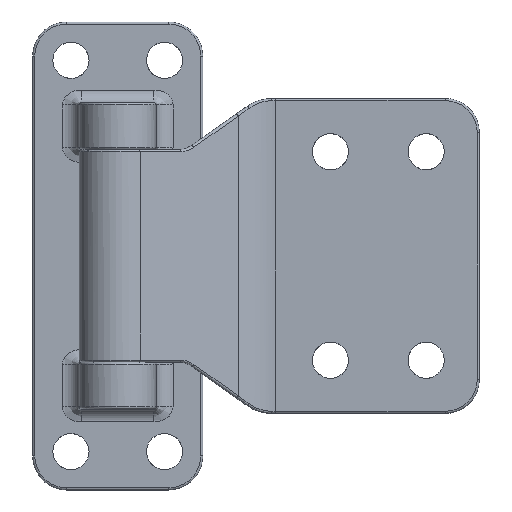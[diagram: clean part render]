
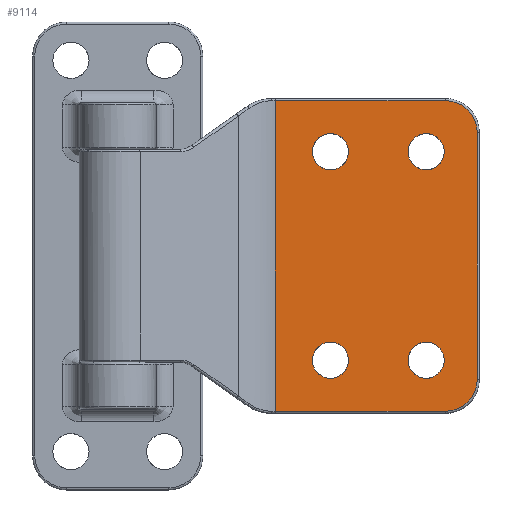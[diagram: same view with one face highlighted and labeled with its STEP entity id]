
A CAD part, top view. The second image highlights one B-rep face of the part: STEP entity #9114.
In plain terms, the highlighted planar face has unit normal (0, 0, 1).
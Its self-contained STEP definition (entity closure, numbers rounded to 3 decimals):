
#28 = CARTESIAN_POINT ( 'NONE',  ( 85., 37., -12. ) ) ;
#35 = AXIS2_PLACEMENT_3D ( 'NONE', #10041, #2423, #11174 ) ;
#132 = ORIENTED_EDGE ( 'NONE', *, *, #7235, .T. ) ;
#304 = DIRECTION ( 'NONE',  ( 0., 0., 1. ) ) ;
#354 = CARTESIAN_POINT ( 'NONE',  ( 68.25, -24.5, -12. ) ) ;
#378 = AXIS2_PLACEMENT_3D ( 'NONE', #7570, #3030, #6511 ) ;
#527 = CIRCLE ( 'NONE', #10130, 4.25 ) ;
#650 = VERTEX_POINT ( 'NONE', #4736 ) ;
#696 = VERTEX_POINT ( 'NONE', #10417 ) ;
#844 = ORIENTED_EDGE ( 'NONE', *, *, #3725, .T. ) ;
#862 = VECTOR ( 'NONE', #12606, 1000. ) ;
#877 = CARTESIAN_POINT ( 'NONE',  ( 45.75, -24.5, -12. ) ) ;
#928 = VERTEX_POINT ( 'NONE', #9343 ) ;
#1083 = FACE_BOUND ( 'NONE', #1736, .T. ) ;
#1194 = AXIS2_PLACEMENT_3D ( 'NONE', #8009, #11311, #13557 ) ;
#1208 = VERTEX_POINT ( 'NONE', #13534 ) ;
#1452 = DIRECTION ( 'NONE',  ( 1., 0., 0. ) ) ;
#1736 = EDGE_LOOP ( 'NONE', ( #3424, #13037 ) ) ;
#1811 = VERTEX_POINT ( 'NONE', #6261 ) ;
#2043 = DIRECTION ( 'NONE',  ( 0., 0., 1. ) ) ;
#2066 = ORIENTED_EDGE ( 'NONE', *, *, #13588, .F. ) ;
#2131 = FACE_BOUND ( 'NONE', #7079, .T. ) ;
#2240 = VERTEX_POINT ( 'NONE', #354 ) ;
#2423 = DIRECTION ( 'NONE',  ( 0., 0., 1. ) ) ;
#2437 = DIRECTION ( 'NONE',  ( 1., 0., 0. ) ) ;
#2580 = DIRECTION ( 'NONE',  ( 1., 0., 0. ) ) ;
#2845 = CARTESIAN_POINT ( 'NONE',  ( 72.5, 24.5, -12. ) ) ;
#2846 = CIRCLE ( 'NONE', #10213, 4.25 ) ;
#2867 = LINE ( 'NONE', #7126, #862 ) ;
#3030 = DIRECTION ( 'NONE',  ( 0., 0., 1. ) ) ;
#3051 = VERTEX_POINT ( 'NONE', #10044 ) ;
#3242 = FACE_BOUND ( 'NONE', #9180, .T. ) ;
#3287 = CIRCLE ( 'NONE', #12686, 7.5 ) ;
#3424 = ORIENTED_EDGE ( 'NONE', *, *, #3745, .F. ) ;
#3486 = CARTESIAN_POINT ( 'NONE',  ( 50., -24.5, -12. ) ) ;
#3565 = ORIENTED_EDGE ( 'NONE', *, *, #6147, .F. ) ;
#3600 = CARTESIAN_POINT ( 'NONE',  ( 77., -29., -12. ) ) ;
#3670 = ORIENTED_EDGE ( 'NONE', *, *, #11327, .F. ) ;
#3725 = EDGE_CURVE ( 'NONE', #650, #696, #12631, .T. ) ;
#3745 = EDGE_CURVE ( 'NONE', #3051, #10426, #11153, .T. ) ;
#4114 = CIRCLE ( 'NONE', #6783, 4.25 ) ;
#4238 = EDGE_CURVE ( 'NONE', #1208, #12111, #4582, .T. ) ;
#4542 = CIRCLE ( 'NONE', #1194, 4.25 ) ;
#4582 = LINE ( 'NONE', #10185, #9836 ) ;
#4660 = DIRECTION ( 'NONE',  ( 0., 0., 1. ) ) ;
#4736 = CARTESIAN_POINT ( 'NONE',  ( 84.5, -29., -12. ) ) ;
#4847 = AXIS2_PLACEMENT_3D ( 'NONE', #12173, #11900, #2580 ) ;
#5085 = EDGE_CURVE ( 'NONE', #10426, #3051, #2846, .T. ) ;
#5141 = EDGE_CURVE ( 'NONE', #6354, #1811, #5740, .T. ) ;
#5279 = ORIENTED_EDGE ( 'NONE', *, *, #4238, .T. ) ;
#5409 = DIRECTION ( 'NONE',  ( 1., 0., 0. ) ) ;
#5422 = EDGE_CURVE ( 'NONE', #5642, #650, #3287, .T. ) ;
#5423 = EDGE_LOOP ( 'NONE', ( #8697, #844, #132, #5279, #13521, #8673 ) ) ;
#5642 = VERTEX_POINT ( 'NONE', #9874 ) ;
#5740 = CIRCLE ( 'NONE', #4847, 4.25 ) ;
#5950 = EDGE_CURVE ( 'NONE', #9879, #5642, #2867, .T. ) ;
#6147 = EDGE_CURVE ( 'NONE', #12744, #9778, #12028, .T. ) ;
#6261 = CARTESIAN_POINT ( 'NONE',  ( 68.25, 24.5, -12. ) ) ;
#6262 = PLANE ( 'NONE',  #6448 ) ;
#6354 = VERTEX_POINT ( 'NONE', #13428 ) ;
#6409 = VECTOR ( 'NONE', #9662, 1000. ) ;
#6448 = AXIS2_PLACEMENT_3D ( 'NONE', #28, #11590, #5409 ) ;
#6454 = CARTESIAN_POINT ( 'NONE',  ( 54.25, 24.5, -12. ) ) ;
#6511 = DIRECTION ( 'NONE',  ( 1., 0., 0. ) ) ;
#6772 = DIRECTION ( 'NONE',  ( 0., 0., 1. ) ) ;
#6783 = AXIS2_PLACEMENT_3D ( 'NONE', #2845, #10188, #10117 ) ;
#7079 = EDGE_LOOP ( 'NONE', ( #12018, #12728 ) ) ;
#7126 = CARTESIAN_POINT ( 'NONE',  ( 37.058, -36.5, -12. ) ) ;
#7235 = EDGE_CURVE ( 'NONE', #696, #1208, #12343, .T. ) ;
#7503 = EDGE_LOOP ( 'NONE', ( #13040, #3670 ) ) ;
#7570 = CARTESIAN_POINT ( 'NONE',  ( 50., 24.5, -12. ) ) ;
#7676 = VECTOR ( 'NONE', #8148, 1000. ) ;
#7686 = CARTESIAN_POINT ( 'NONE',  ( 54.25, -24.5, -12. ) ) ;
#8009 = CARTESIAN_POINT ( 'NONE',  ( 72.5, -24.5, -12. ) ) ;
#8148 = DIRECTION ( 'NONE',  ( 0., -1., 0. ) ) ;
#8155 = AXIS2_PLACEMENT_3D ( 'NONE', #12482, #2043, #11562 ) ;
#8673 = ORIENTED_EDGE ( 'NONE', *, *, #5950, .T. ) ;
#8697 = ORIENTED_EDGE ( 'NONE', *, *, #5422, .T. ) ;
#9114 = ADVANCED_FACE ( 'NONE', ( #10530, #2131, #3242, #9746, #1083 ), #6262, .T. ) ;
#9180 = EDGE_LOOP ( 'NONE', ( #3565, #2066 ) ) ;
#9319 = CARTESIAN_POINT ( 'NONE',  ( 72.5, -24.5, -12. ) ) ;
#9343 = CARTESIAN_POINT ( 'NONE',  ( 76.75, -24.5, -12. ) ) ;
#9662 = DIRECTION ( 'NONE',  ( 0., 1., 0. ) ) ;
#9746 = FACE_BOUND ( 'NONE', #7503, .T. ) ;
#9778 = VERTEX_POINT ( 'NONE', #7686 ) ;
#9836 = VECTOR ( 'NONE', #12153, 1000. ) ;
#9856 = CARTESIAN_POINT ( 'NONE',  ( 50., 24.5, -12. ) ) ;
#9874 = CARTESIAN_POINT ( 'NONE',  ( 77., -36.5, -12. ) ) ;
#9879 = VERTEX_POINT ( 'NONE', #11888 ) ;
#9958 = DIRECTION ( 'NONE',  ( 0., -1., 0. ) ) ;
#10041 = CARTESIAN_POINT ( 'NONE',  ( 77., 29., -12. ) ) ;
#10044 = CARTESIAN_POINT ( 'NONE',  ( 45.75, 24.5, -12. ) ) ;
#10052 = EDGE_CURVE ( 'NONE', #1811, #6354, #4114, .T. ) ;
#10117 = DIRECTION ( 'NONE',  ( 1., 0., 0. ) ) ;
#10130 = AXIS2_PLACEMENT_3D ( 'NONE', #9319, #10297, #11286 ) ;
#10185 = CARTESIAN_POINT ( 'NONE',  ( 77., 36.5, -12. ) ) ;
#10188 = DIRECTION ( 'NONE',  ( 0., 0., 1. ) ) ;
#10213 = AXIS2_PLACEMENT_3D ( 'NONE', #9856, #6772, #1452 ) ;
#10297 = DIRECTION ( 'NONE',  ( 0., 0., 1. ) ) ;
#10333 = CARTESIAN_POINT ( 'NONE',  ( 37.058, 36.5, -12. ) ) ;
#10417 = CARTESIAN_POINT ( 'NONE',  ( 84.5, 29., -12. ) ) ;
#10426 = VERTEX_POINT ( 'NONE', #6454 ) ;
#10530 = FACE_OUTER_BOUND ( 'NONE', #5423, .T. ) ;
#10591 = CARTESIAN_POINT ( 'NONE',  ( 84.5, -29., -12. ) ) ;
#10624 = CIRCLE ( 'NONE', #8155, 4.25 ) ;
#11153 = CIRCLE ( 'NONE', #378, 4.25 ) ;
#11174 = DIRECTION ( 'NONE',  ( 1., 0., 0. ) ) ;
#11286 = DIRECTION ( 'NONE',  ( 1., 0., 0. ) ) ;
#11311 = DIRECTION ( 'NONE',  ( 0., 0., 1. ) ) ;
#11327 = EDGE_CURVE ( 'NONE', #928, #2240, #527, .T. ) ;
#11562 = DIRECTION ( 'NONE',  ( 1., 0., 0. ) ) ;
#11590 = DIRECTION ( 'NONE',  ( 0., 0., 1. ) ) ;
#11628 = EDGE_CURVE ( 'NONE', #2240, #928, #4542, .T. ) ;
#11684 = EDGE_CURVE ( 'NONE', #12111, #9879, #13419, .T. ) ;
#11888 = CARTESIAN_POINT ( 'NONE',  ( 37.058, -36.5, -12. ) ) ;
#11900 = DIRECTION ( 'NONE',  ( 0., 0., 1. ) ) ;
#12018 = ORIENTED_EDGE ( 'NONE', *, *, #10052, .F. ) ;
#12028 = CIRCLE ( 'NONE', #13835, 4.25 ) ;
#12111 = VERTEX_POINT ( 'NONE', #12887 ) ;
#12153 = DIRECTION ( 'NONE',  ( -1., 0., 0. ) ) ;
#12173 = CARTESIAN_POINT ( 'NONE',  ( 72.5, 24.5, -12. ) ) ;
#12343 = CIRCLE ( 'NONE', #35, 7.5 ) ;
#12482 = CARTESIAN_POINT ( 'NONE',  ( 50., -24.5, -12. ) ) ;
#12606 = DIRECTION ( 'NONE',  ( 1., 0., 0. ) ) ;
#12631 = LINE ( 'NONE', #10591, #6409 ) ;
#12686 = AXIS2_PLACEMENT_3D ( 'NONE', #3600, #304, #9958 ) ;
#12728 = ORIENTED_EDGE ( 'NONE', *, *, #5141, .F. ) ;
#12744 = VERTEX_POINT ( 'NONE', #877 ) ;
#12887 = CARTESIAN_POINT ( 'NONE',  ( 37.058, 36.5, -12. ) ) ;
#13037 = ORIENTED_EDGE ( 'NONE', *, *, #5085, .F. ) ;
#13040 = ORIENTED_EDGE ( 'NONE', *, *, #11628, .F. ) ;
#13419 = LINE ( 'NONE', #10333, #7676 ) ;
#13428 = CARTESIAN_POINT ( 'NONE',  ( 76.75, 24.5, -12. ) ) ;
#13521 = ORIENTED_EDGE ( 'NONE', *, *, #11684, .T. ) ;
#13534 = CARTESIAN_POINT ( 'NONE',  ( 77., 36.5, -12. ) ) ;
#13557 = DIRECTION ( 'NONE',  ( 1., 0., 0. ) ) ;
#13588 = EDGE_CURVE ( 'NONE', #9778, #12744, #10624, .T. ) ;
#13835 = AXIS2_PLACEMENT_3D ( 'NONE', #3486, #4660, #2437 ) ;
